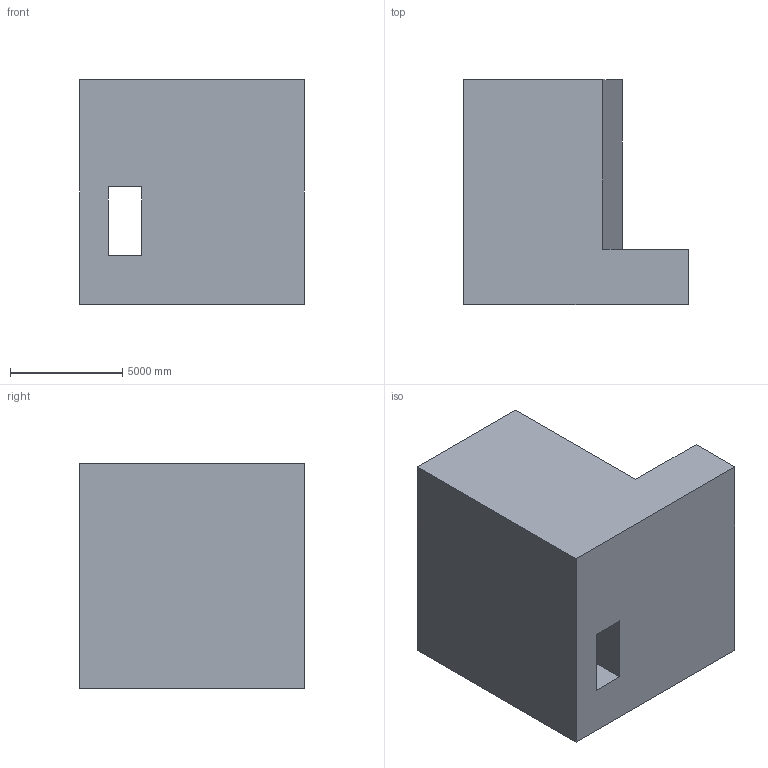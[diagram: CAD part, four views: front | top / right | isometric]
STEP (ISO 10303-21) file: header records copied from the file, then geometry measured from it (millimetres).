
FILE_DESCRIPTION (( 'STEP AP203' ), '1' );
FILE_NAME ('1119.STEP', '2022-08-18T12:50:08', ( 'user' ), ( '' ), 'SwSTEP 2.0', 'SolidWorks 2021', '' );
FILE_SCHEMA (( 'CONFIG_CONTROL_DESIGN' ));
Length unit declared in the file: centimetre
Products named in the file (1): 1119
Bounding box: 10000 x 10000 x 10000 mm (x, y, z)
Volume: 699616844077.6 mm3; surface area: 625345075.4 mm2
Topology: 1 solids, 1 shells, 13 faces, 33 edges, 22 vertices
Faces by surface type: plane 13
Entity records: 468 total; most frequent: CARTESIAN_POINT 69, ORIENTED_EDGE 66, DIRECTION 61, VECTOR 33, EDGE_CURVE 33, LINE 33, VERTEX_POINT 22, EDGE_LOOP 15
